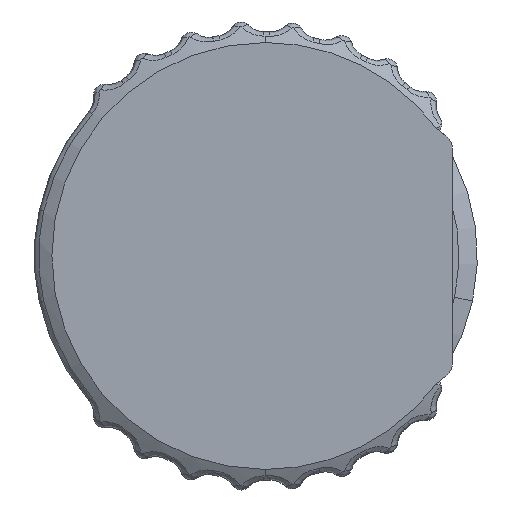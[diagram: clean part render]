
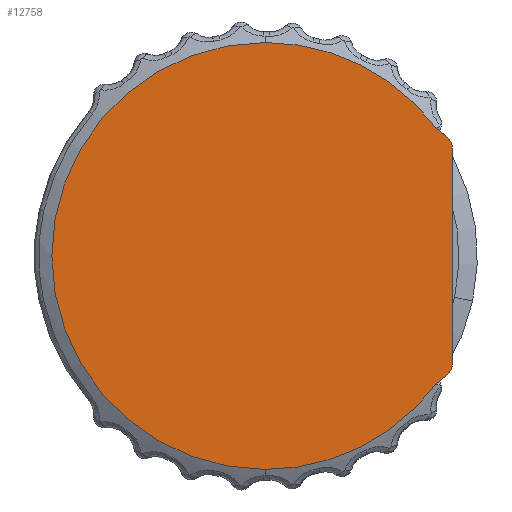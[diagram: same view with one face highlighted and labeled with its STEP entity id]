
A CAD part, left-side view. The second image highlights one B-rep face of the part: STEP entity #12758.
In plain terms, the highlighted planar face has unit normal (-1, 0, 0).
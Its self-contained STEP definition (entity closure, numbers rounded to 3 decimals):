
#435 = ORIENTED_EDGE ( 'NONE', *, *, #8654, .F. ) ;
#454 = VERTEX_POINT ( 'NONE', #19045 ) ;
#541 = AXIS2_PLACEMENT_3D ( 'NONE', #20653, #2615, #12332 ) ;
#634 = DIRECTION ( 'NONE',  ( 0., 0., -1. ) ) ;
#1623 = VERTEX_POINT ( 'NONE', #17471 ) ;
#1980 = ORIENTED_EDGE ( 'NONE', *, *, #17427, .F. ) ;
#2467 = DIRECTION ( 'NONE',  ( 1., 0., 0. ) ) ;
#2615 = DIRECTION ( 'NONE',  ( 1., 0., 0. ) ) ;
#3023 = AXIS2_PLACEMENT_3D ( 'NONE', #19011, #2467, #20190 ) ;
#4117 = AXIS2_PLACEMENT_3D ( 'NONE', #19061, #16055, #7643 ) ;
#4156 = VECTOR ( 'NONE', #14551, 1000. ) ;
#4258 = DIRECTION ( 'NONE',  ( 1., 0., 0. ) ) ;
#6222 = LINE ( 'NONE', #16323, #7080 ) ;
#6549 = AXIS2_PLACEMENT_3D ( 'NONE', #11955, #4258, #12373 ) ;
#6633 = ORIENTED_EDGE ( 'NONE', *, *, #17912, .F. ) ;
#7080 = VECTOR ( 'NONE', #19326, 1000. ) ;
#7406 = CARTESIAN_POINT ( 'NONE',  ( 0., -4.82, -3.64 ) ) ;
#7643 = DIRECTION ( 'NONE',  ( 0., 0., -1. ) ) ;
#8059 = LINE ( 'NONE', #11272, #4156 ) ;
#8654 = EDGE_CURVE ( 'NONE', #16718, #15767, #13256, .T. ) ;
#9026 = ORIENTED_EDGE ( 'NONE', *, *, #19193, .F. ) ;
#9321 = VERTEX_POINT ( 'NONE', #18508 ) ;
#9456 = PLANE ( 'NONE',  #541 ) ;
#9834 = EDGE_CURVE ( 'NONE', #9321, #20469, #6222, .T. ) ;
#10280 = CARTESIAN_POINT ( 'NONE',  ( 0., -4.82, 3.64 ) ) ;
#10929 = VERTEX_POINT ( 'NONE', #13667 ) ;
#11272 = CARTESIAN_POINT ( 'NONE',  ( 0., -4.82, -3.64 ) ) ;
#11619 = CIRCLE ( 'NONE', #4117, 0.43 ) ;
#11955 = CARTESIAN_POINT ( 'NONE',  ( 0., 0., 0. ) ) ;
#12071 = DIRECTION ( 'NONE',  ( 0., 0., -1. ) ) ;
#12092 = CARTESIAN_POINT ( 'NONE',  ( 0., -4.82, 3.64 ) ) ;
#12119 = CARTESIAN_POINT ( 'NONE',  ( 0., -5.29, -3.05 ) ) ;
#12315 = CIRCLE ( 'NONE', #6549, 6.04 ) ;
#12332 = DIRECTION ( 'NONE',  ( 0., 0., -1. ) ) ;
#12373 = DIRECTION ( 'NONE',  ( 0., 0., -1. ) ) ;
#12758 = ADVANCED_FACE ( 'NONE', ( #14129 ), #9456, .F. ) ;
#13256 = CIRCLE ( 'NONE', #3023, 6.04 ) ;
#13507 = ORIENTED_EDGE ( 'NONE', *, *, #16000, .F. ) ;
#13667 = CARTESIAN_POINT ( 'NONE',  ( 0., -5.106, 3.403 ) ) ;
#14129 = FACE_OUTER_BOUND ( 'NONE', #19090, .T. ) ;
#14551 = DIRECTION ( 'NONE',  ( 0., 0.77, -0.639 ) ) ;
#14793 = ORIENTED_EDGE ( 'NONE', *, *, #18989, .F. ) ;
#14903 = AXIS2_PLACEMENT_3D ( 'NONE', #19955, #15249, #634 ) ;
#15249 = DIRECTION ( 'NONE',  ( 1., 0., 0. ) ) ;
#15377 = LINE ( 'NONE', #10280, #20499 ) ;
#15402 = CIRCLE ( 'NONE', #16416, 0.43 ) ;
#15767 = VERTEX_POINT ( 'NONE', #15800 ) ;
#15800 = CARTESIAN_POINT ( 'NONE',  ( 0., 0., -6.04 ) ) ;
#16000 = EDGE_CURVE ( 'NONE', #15767, #454, #12315, .T. ) ;
#16055 = DIRECTION ( 'NONE',  ( 1., 0., 0. ) ) ;
#16323 = CARTESIAN_POINT ( 'NONE',  ( 0., -5.29, 3.05 ) ) ;
#16416 = AXIS2_PLACEMENT_3D ( 'NONE', #18688, #17091, #12071 ) ;
#16552 = EDGE_CURVE ( 'NONE', #1623, #16718, #8059, .T. ) ;
#16718 = VERTEX_POINT ( 'NONE', #7406 ) ;
#17091 = DIRECTION ( 'NONE',  ( 1., 0., 0. ) ) ;
#17427 = EDGE_CURVE ( 'NONE', #20469, #1623, #11619, .T. ) ;
#17471 = CARTESIAN_POINT ( 'NONE',  ( 0., -5.106, -3.403 ) ) ;
#17583 = VERTEX_POINT ( 'NONE', #12092 ) ;
#17912 = EDGE_CURVE ( 'NONE', #17583, #10929, #15377, .T. ) ;
#17969 = CIRCLE ( 'NONE', #14903, 6.04 ) ;
#18480 = DIRECTION ( 'NONE',  ( 0., -0.77, -0.639 ) ) ;
#18508 = CARTESIAN_POINT ( 'NONE',  ( 0., -5.29, 3.05 ) ) ;
#18670 = ORIENTED_EDGE ( 'NONE', *, *, #16552, .F. ) ;
#18688 = CARTESIAN_POINT ( 'NONE',  ( 0., -4.86, 3.05 ) ) ;
#18989 = EDGE_CURVE ( 'NONE', #10929, #9321, #15402, .T. ) ;
#19011 = CARTESIAN_POINT ( 'NONE',  ( 0., 0., 0. ) ) ;
#19045 = CARTESIAN_POINT ( 'NONE',  ( 0., 0., 6.04 ) ) ;
#19061 = CARTESIAN_POINT ( 'NONE',  ( 0., -4.86, -3.05 ) ) ;
#19090 = EDGE_LOOP ( 'NONE', ( #435, #18670, #1980, #20479, #14793, #6633, #9026, #13507 ) ) ;
#19193 = EDGE_CURVE ( 'NONE', #454, #17583, #17969, .T. ) ;
#19326 = DIRECTION ( 'NONE',  ( 0., 0., -1. ) ) ;
#19955 = CARTESIAN_POINT ( 'NONE',  ( 0., 0., 0. ) ) ;
#20190 = DIRECTION ( 'NONE',  ( 0., 0., -1. ) ) ;
#20469 = VERTEX_POINT ( 'NONE', #12119 ) ;
#20479 = ORIENTED_EDGE ( 'NONE', *, *, #9834, .F. ) ;
#20499 = VECTOR ( 'NONE', #18480, 1000. ) ;
#20653 = CARTESIAN_POINT ( 'NONE',  ( 0., 2.159, 0. ) ) ;
